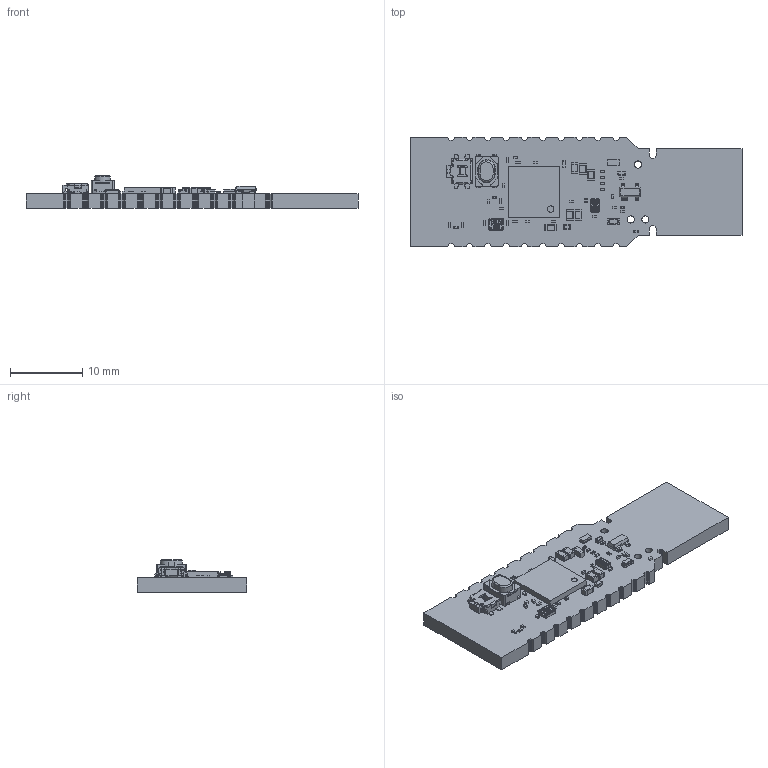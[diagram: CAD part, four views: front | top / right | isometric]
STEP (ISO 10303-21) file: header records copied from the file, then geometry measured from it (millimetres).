
FILE_DESCRIPTION(('Open CASCADE Model'),'2;1');
FILE_NAME('Open CASCADE Shape Model','2021-04-07T14:41:13',('Author'),( 'Open CASCADE'),'Open CASCADE STEP processor 6.8','Open CASCADE 6.8' ,'Unknown');
FILE_SCHEMA(('AUTOMOTIVE_DESIGN { 1 0 10303 214 1 1 1 1 }'));
Length unit declared in the file: millimetre
Products named in the file (87): PCB; Board; Open CASCADE STEP translator 6.8 2.1.1; Open CASCADE STEP translator 6.8 2.1.1.1; R7; User_Library-res0201-1; R5; SW2; User_Library-EVQP7-JA-01P; SW1; Y97LT25BADBFP_-PTS810_SJ_250_SMTR; U1; 12095311264; Open_CASCADE_STEP_translator_6.8_9.1; Body; Open_CASCADE_STEP_translator_6.8_9.2.1; pinShape; C16; User_Library-0201(0603M)_Cap; R6; R4; LD2; 6713596800; Extruded; 6713596640; 6713596480; 13333890192; 13333891952; C21; C23; User_Library-0402(1005M)_Cap; C24; C22; D1; User_Library-sot143; FB1; User_Library-smt_inductor-0201; FB2; LD1; User_Library-led_0603_green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
Assembly tree (301 placements, depth 5):
  PCB
    Board
      Open CASCADE STEP translator 6.8 2.1.1
        Open CASCADE STEP translator 6.8 2.1.1.1
    R7
      User_Library-res0201-1
    R5
      User_Library-res0201-1
    SW2
      User_Library-EVQP7-JA-01P
    SW1
      Y97LT25BADBFP_-PTS810_SJ_250_SMTR
    U1
      12095311264
        Open_CASCADE_STEP_translator_6.8_9.1
        Body
          Open_CASCADE_STEP_translator_6.8_9.2.1
        pinShape  x184
    C16
      User_Library-0201(0603M)_Cap
    R6
      User_Library-res0201-1
    R4
      User_Library-res0201-1
    LD2
      6713596800
        Extruded
      6713596640
        Extruded
      6713596480
        Extruded
      13333890192
        Extruded
      13333891952
        Extruded
    C21
      User_Library-0201(0603M)_Cap
    C23
      User_Library-0402(1005M)_Cap
    C24
      User_Library-0201(0603M)_Cap
    C22
      User_Library-0201(0603M)_Cap
    D1
      User_Library-sot143
    FB1
      User_Library-smt_inductor-0201
    FB2
      User_Library-smt_inductor-0201
    LD1
      User_Library-led_0603_green
    R3
      User_Library-res0201-1
    L4
      User_Library-Chip_Inductor
    C13
      User_Library-0201(0603M)_Cap
    C12
      User_Library-0201(0603M)_Cap
    C20
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Bounding box: 46.04 x 15.24 x 4.57 mm (x, y, z)
Volume: 1411.6 mm3; surface area: 2055.6 mm2
Topology: 288 solids, 290 shells, 5270 faces, 12757 edges, 7990 vertices
Faces by surface type: plane 2808, bspline 1413, cylinder 967, sphere 68, torus 14
Full cylindrical faces by diameter (mm): 0.25 x184, 0.887 x1, 0.991 x3
Entity records: 79187 total; most frequent: CARTESIAN_POINT 20724, ORIENTED_EDGE 10179, DIRECTION 8602, EDGE_CURVE 5124, LINE 3738, VECTOR 3738, VERTEX_POINT 3312, AXIS2_PLACEMENT_3D 2432
